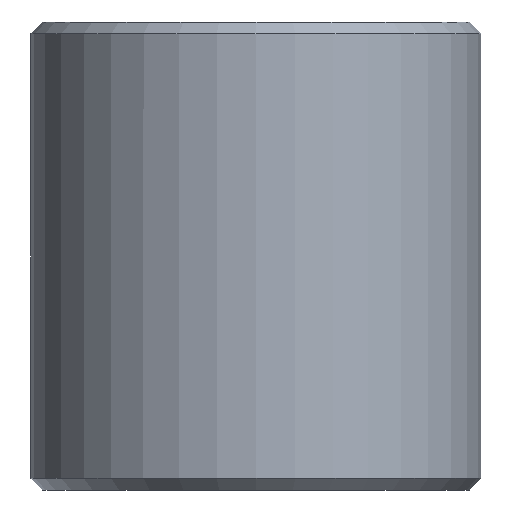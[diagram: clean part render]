
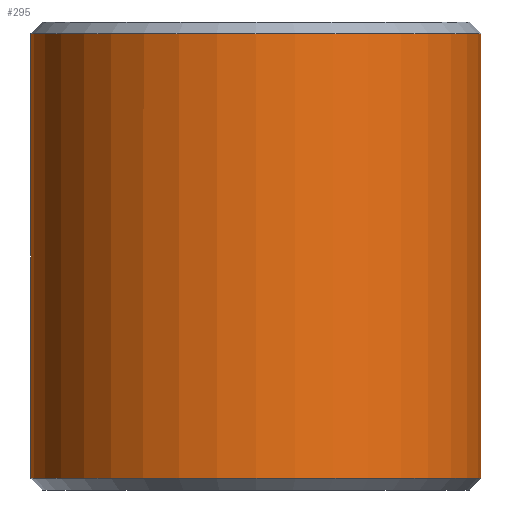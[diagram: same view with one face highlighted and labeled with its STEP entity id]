
A CAD part, front view. The second image highlights one B-rep face of the part: STEP entity #295.
In plain terms, the highlighted cylindrical face has radius 25 mm (diameter 50 mm), a partial arc.
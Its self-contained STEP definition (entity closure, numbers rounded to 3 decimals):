
#7 = DIRECTION ( 'NONE',  ( 0., 0., 1. ) ) ;
#11 = DIRECTION ( 'NONE',  ( 0., 0., -1. ) ) ;
#17 = ORIENTED_EDGE ( 'NONE', *, *, #42, .T. ) ;
#32 = CARTESIAN_POINT ( 'NONE',  ( -25., 0., 24.7 ) ) ;
#40 = AXIS2_PLACEMENT_3D ( 'NONE', #262, #129, #336 ) ;
#42 = EDGE_CURVE ( 'NONE', #337, #48, #244, .T. ) ;
#45 = CARTESIAN_POINT ( 'NONE',  ( -25., 0., 26. ) ) ;
#47 = CIRCLE ( 'NONE', #40, 25. ) ;
#48 = VERTEX_POINT ( 'NONE', #391 ) ;
#100 = CARTESIAN_POINT ( 'NONE',  ( 25., 0., -24.7 ) ) ;
#114 = DIRECTION ( 'NONE',  ( 0., 0., -1. ) ) ;
#129 = DIRECTION ( 'NONE',  ( 0., 0., -1. ) ) ;
#156 = VECTOR ( 'NONE', #11, 1000. ) ;
#187 = AXIS2_PLACEMENT_3D ( 'NONE', #372, #268, #264 ) ;
#193 = VERTEX_POINT ( 'NONE', #254 ) ;
#203 = VECTOR ( 'NONE', #114, 1000. ) ;
#215 = AXIS2_PLACEMENT_3D ( 'NONE', #346, #7, #379 ) ;
#226 = FACE_OUTER_BOUND ( 'NONE', #373, .T. ) ;
#231 = EDGE_CURVE ( 'NONE', #193, #319, #294, .T. ) ;
#244 = LINE ( 'NONE', #45, #156 ) ;
#254 = CARTESIAN_POINT ( 'NONE',  ( 25., 0., 24.7 ) ) ;
#262 = CARTESIAN_POINT ( 'NONE',  ( 0., 0., 24.7 ) ) ;
#264 = DIRECTION ( 'NONE',  ( -1., 0., 0. ) ) ;
#268 = DIRECTION ( 'NONE',  ( 0., 0., -1. ) ) ;
#270 = CIRCLE ( 'NONE', #215, 25. ) ;
#294 = LINE ( 'NONE', #320, #203 ) ;
#295 = ADVANCED_FACE ( 'NONE', ( #226 ), #417, .T. ) ;
#319 = VERTEX_POINT ( 'NONE', #100 ) ;
#320 = CARTESIAN_POINT ( 'NONE',  ( 25., 0., 26. ) ) ;
#336 = DIRECTION ( 'NONE',  ( 1., 0., 0. ) ) ;
#337 = VERTEX_POINT ( 'NONE', #32 ) ;
#342 = EDGE_CURVE ( 'NONE', #193, #337, #47, .T. ) ;
#346 = CARTESIAN_POINT ( 'NONE',  ( 0., 0., -24.7 ) ) ;
#361 = ORIENTED_EDGE ( 'NONE', *, *, #231, .F. ) ;
#371 = ORIENTED_EDGE ( 'NONE', *, *, #440, .T. ) ;
#372 = CARTESIAN_POINT ( 'NONE',  ( 0., 0., 26. ) ) ;
#373 = EDGE_LOOP ( 'NONE', ( #361, #414, #17, #371 ) ) ;
#379 = DIRECTION ( 'NONE',  ( 1., 0., 0. ) ) ;
#391 = CARTESIAN_POINT ( 'NONE',  ( -25., 0., -24.7 ) ) ;
#414 = ORIENTED_EDGE ( 'NONE', *, *, #342, .T. ) ;
#417 = CYLINDRICAL_SURFACE ( 'NONE', #187, 25. ) ;
#440 = EDGE_CURVE ( 'NONE', #48, #319, #270, .T. ) ;
